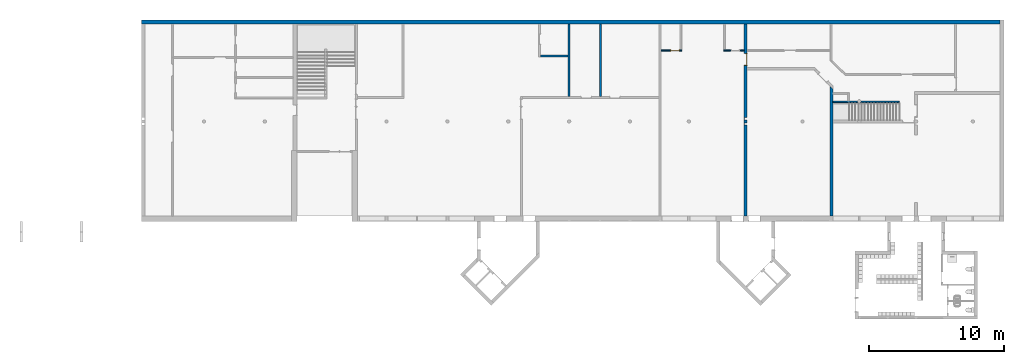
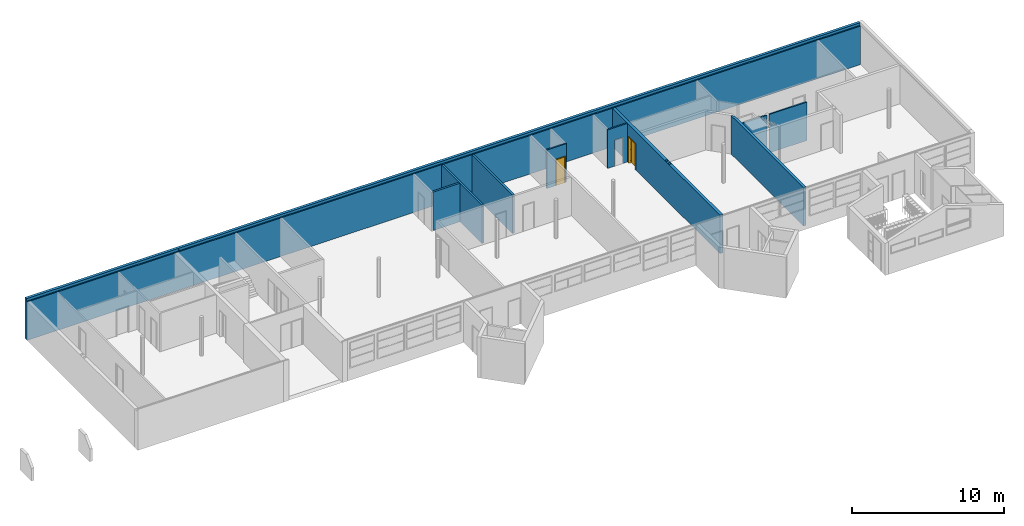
# One storey, part 17 of 25: 9 walls, 2 doors, 3 openings.
"""IFC2X3 building model written with IfcOpenShell, lengths in millimetres."""

from ifc_helpers import new_model, entity, si_unit, converted_unit, derived_unit, money_unit, direction, frame, origin_with_axes, place, context, subcontext, project, spatial, faceted_brep, material, type_object, element, fill, save


model = new_model("IFC2X3")

# Units and contexts
model_context = context("Model", 3, precision=0.01, world=origin_with_axes(), true_north=direction((0.0, 1.0)))
body_context = subcontext(model_context, "Body", "Model", "MODEL_VIEW")
ifc_project = project(units=[si_unit("LENGTHUNIT", "METRE", prefix="MILLI"), si_unit("AREAUNIT", "SQUARE_METRE"), si_unit("VOLUMEUNIT", "CUBIC_METRE"), converted_unit("PLANEANGLEUNIT", "DEGREE", entity("IfcPlaneAngleMeasure", 0.0174532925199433), si_unit("PLANEANGLEUNIT", "RADIAN"), dimensions=[0, 0, 0, 0, 0, 0, 0]), money_unit("USD"), converted_unit("TIMEUNIT", "Year", entity("IfcTimeMeasure", 31557600.0), si_unit("TIMEUNIT", "SECOND"), dimensions=[0, 0, 1, 0, 0, 0, 0]), si_unit("MASSUNIT", "GRAM", prefix="KILO"), si_unit("THERMODYNAMICTEMPERATUREUNIT", "DEGREE_CELSIUS"), si_unit("LUMINOUSINTENSITYUNIT", "LUMEN"), si_unit("ENERGYUNIT", "JOULE", prefix="MEGA"), derived_unit("THERMALCONDUCTANCEUNIT", [(si_unit("POWERUNIT", "WATT"), 1), (si_unit("LENGTHUNIT", "METRE"), -1), (si_unit("THERMODYNAMICTEMPERATUREUNIT", "KELVIN"), -1)]), derived_unit("SPECIFICHEATCAPACITYUNIT", [(si_unit("ENERGYUNIT", "JOULE"), 1), (si_unit("MASSUNIT", "GRAM", prefix="KILO"), -1), (si_unit("THERMODYNAMICTEMPERATUREUNIT", "KELVIN"), -1)]), derived_unit("MASSDENSITYUNIT", [(si_unit("MASSUNIT", "GRAM", prefix="KILO"), 1), (si_unit("VOLUMEUNIT", "CUBIC_METRE"), -1)])], contexts=[model_context])

# Site, building, storey
site_placement = place(None, origin_with_axes())
site = spatial("IfcSite", under=ifc_project, at=site_placement, Name="Site", CompositionType="ELEMENT")
building_placement = place(site_placement, origin_with_axes())
building = spatial("IfcBuilding", under=site, at=building_placement, Name="Building", CompositionType="ELEMENT")
storey_placement = place(building_placement, origin_with_axes())
storey = spatial("IfcBuildingStorey", under=building, at=storey_placement, Name="U ETG", CompositionType="ELEMENT", Elevation=0.0)

# Wall, opening, door
ifc_material_1 = material(Name="GENERIC - INTERNAL FILLER")
wall_type_1 = type_object("IfcWallType", Name="GENERIC - INTERNAL FILLER 110", PredefinedType="NOTDEFINED")
wall_1_placement = place(storey_placement, frame((47150.35609034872, 19800.0, 0.0), z_axis=(0.0, 0.0, 1.0), x_axis=(1.0, 0.0, 0.0)))
wall_1 = element("IfcWall", 1, at=wall_1_placement, inside=storey, type_object=wall_type_1, material=ifc_material_1, Name="SW - 001", context=body_context, shape_type="Brep", body=[
    faceted_brep([(854.643909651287, 0.0, 2100.0), (854.643909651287, 0.0, 0.0), (149.9999999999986, 0.0, 0.0), (149.9999999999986, 0.0, 3100.0), (1659.64390965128, 0.0, 3100.0), (1659.64390965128, 0.0, 0.0), (1504.643909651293, 0.0, 0.0), (1504.643909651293, 0.0, 2100.0), (854.643909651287, -109.9999999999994, 2100.0), (854.643909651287, -109.9999999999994, 0.0), (149.9999999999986, -109.9999999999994, 0.0), (149.9999999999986, -109.9999999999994, 3100.0), (1659.64390965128, -109.9999999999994, 3100.0), (1659.64390965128, -109.9999999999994, 0.0), (1504.643909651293, -109.9999999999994, 0.0), (1504.643909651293, -109.9999999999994, 2100.0)], [[[0, 1, 2, 3, 4, 5, 6, 7]], [[1, 0, 8, 9]], [[1, 9, 10, 2]], [[11, 3, 2, 10]], [[4, 3, 11, 12]], [[12, 13, 5, 4]], [[14, 6, 5, 13]], [[7, 6, 14, 15]], [[0, 7, 15, 8]], [[15, 14, 13, 12, 11, 10, 9, 8]]]),
])
opening_1_placement = place(wall_1_placement, frame((1179.64390965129, 0.0, 0.0), z_axis=(0.0, 0.0, 1.0), x_axis=(1.0, 0.0, 0.0)))
opening_1 = element("IfcOpeningElement", 2, at=opening_1_placement, cuts=wall_1, Name="DOO - 002", context=body_context, shape_type="Brep", body=[
    faceted_brep([(-325.0000000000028, -109.9999999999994, 2100.0), (325.0000000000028, -109.9999999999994, 2100.0), (325.0000000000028, 0.0, 2100.0), (-325.0000000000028, 0.0, 2100.0), (325.0000000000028, -109.9999999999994, 0.0), (-325.0000000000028, -109.9999999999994, 0.0), (-362.0000000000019, -109.9999999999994, 0.0), (-362.0000000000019, -109.9999999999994, 2137.0), (362.0000000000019, -109.9999999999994, 2137.0), (362.0000000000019, -109.9999999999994, 0.0), (325.0000000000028, 0.0, 0.0), (362.0000000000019, 0.0, 0.0), (362.0000000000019, 0.0, 2137.0), (-362.0000000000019, 0.0, 2137.0), (-362.0000000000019, 0.0, 0.0), (-325.0000000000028, 0.0, 0.0), (-325.0000000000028, -111.0000000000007, 0.0), (-362.0000000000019, -111.0000000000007, 0.0), (-362.0000000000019, -111.0000000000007, 2137.0), (362.0000000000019, -111.0000000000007, 2137.0), (362.0000000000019, -111.0000000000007, 0.0), (325.0000000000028, -111.0000000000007, 0.0), (-325.0000000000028, 1.000000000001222, 0.0), (325.0000000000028, 1.000000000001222, 0.0), (362.0000000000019, 1.000000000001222, 0.0), (362.0000000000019, 1.000000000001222, 2137.0), (-362.0000000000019, 1.000000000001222, 2137.0), (-362.0000000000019, 1.000000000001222, 0.0), (-325.0000000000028, -111.0000000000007, 2100.0), (325.0000000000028, -111.0000000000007, 2100.0)], [[[0, 1, 2, 3]], [[4, 1, 0, 5, 6, 7, 8, 9]], [[1, 4, 10, 2]], [[3, 2, 10, 11, 12, 13, 14, 15]], [[5, 0, 3, 15]], [[5, 16, 17, 6]], [[7, 6, 17, 18]], [[8, 7, 18, 19]], [[9, 8, 19, 20]], [[21, 4, 9, 20]], [[16, 5, 15, 22, 23, 10, 4, 21]], [[10, 23, 24, 11]], [[12, 11, 24, 25]], [[13, 12, 25, 26]], [[14, 13, 26, 27]], [[22, 15, 14, 27]], [[28, 29, 21, 20, 19, 18, 17, 16]], [[23, 22, 27, 26, 25, 24]], [[28, 16, 21, 29]]]),
])
door_style = type_object("IfcDoorStyle", Name="Dør", ConstructionType="NOTDEFINED", OperationType="SINGLE_SWING_RIGHT", ParameterTakesPrecedence=False, Sizeable=False)
door_1_placement = place(opening_1_placement, frame((325.0000000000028, 0.0, 0.0), z_axis=(0.0, 0.0, 1.0), x_axis=(-1.0, 0.0, 0.0)))
door_1 = element("IfcDoor", 3, at=door_1_placement, inside=storey, type_object=door_style, Name="DOO - 002", ObjectType="DOOR", OverallHeight=2100.0, OverallWidth=650.0, context=body_context, shape_type="Brep", body=[
    faceted_brep([(-36.99999999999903, -19.0000000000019, 0.0), (-36.99999999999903, 0.0, 0.0), (13.00000000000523, 0.0, 0.0), (13.00000000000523, -19.0000000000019, 0.0), (-36.99999999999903, -19.0000000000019, 2137.0), (-36.99999999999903, 0.0, 2137.0), (13.00000000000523, 0.0, 2087.0), (13.00000000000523, -19.0000000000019, 2087.0)], [[[0, 1, 2, 3]], [[4, 5, 1, 0]], [[1, 5, 6, 2]], [[3, 2, 6, 7]], [[0, 3, 7, 4]], [[7, 6, 5, 4]]]),
    faceted_brep([(687.0000000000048, -19.0000000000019, 2137.0), (687.0000000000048, 0.0, 2137.0), (637.0000000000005, 0.0, 2087.0), (637.0000000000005, -19.0000000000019, 2087.0), (687.0000000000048, -19.0000000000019, 0.0), (687.0000000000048, 0.0, 0.0), (637.0000000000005, 0.0, 0.0), (637.0000000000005, -19.0000000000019, 0.0)], [[[0, 1, 2, 3]], [[4, 5, 1, 0]], [[1, 5, 6, 2]], [[3, 2, 6, 7]], [[0, 3, 7, 4]], [[7, 6, 5, 4]]]),
    faceted_brep([(-36.99999999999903, -19.0000000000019, 2137.0), (-36.99999999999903, 0.0, 2137.0), (13.00000000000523, 0.0, 2087.0), (13.00000000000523, -19.0000000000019, 2087.0), (687.0000000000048, -19.0000000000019, 2137.0), (687.0000000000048, 0.0, 2137.0), (637.0000000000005, 0.0, 2087.0), (637.0000000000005, -19.0000000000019, 2087.0)], [[[0, 1, 2, 3]], [[4, 5, 1, 0]], [[1, 5, 6, 2]], [[3, 2, 6, 7]], [[0, 3, 7, 4]], [[7, 6, 5, 4]]]),
    faceted_brep([(-36.99999999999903, 128.9999999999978, 0.0), (13.00000000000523, 128.9999999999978, 0.0), (13.00000000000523, 109.9999999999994, 0.0), (-36.99999999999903, 109.9999999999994, 0.0), (-36.99999999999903, 128.9999999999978, 2137.0), (13.00000000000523, 128.9999999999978, 2087.0), (13.00000000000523, 109.9999999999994, 2087.0), (-36.99999999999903, 109.9999999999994, 2137.0)], [[[0, 1, 2, 3]], [[0, 4, 5, 1]], [[1, 5, 6, 2]], [[3, 2, 6, 7]], [[4, 0, 3, 7]], [[5, 4, 7, 6]]]),
    faceted_brep([(687.0000000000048, 128.9999999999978, 2137.0), (637.0000000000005, 128.9999999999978, 2087.0), (637.0000000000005, 109.9999999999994, 2087.0), (687.0000000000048, 109.9999999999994, 2137.0), (687.0000000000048, 128.9999999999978, 0.0), (637.0000000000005, 128.9999999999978, 0.0), (637.0000000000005, 109.9999999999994, 0.0), (687.0000000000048, 109.9999999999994, 0.0)], [[[0, 1, 2, 3]], [[0, 4, 5, 1]], [[1, 5, 6, 2]], [[3, 2, 6, 7]], [[4, 0, 3, 7]], [[5, 4, 7, 6]]]),
    faceted_brep([(-36.99999999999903, 128.9999999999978, 2137.0), (13.00000000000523, 128.9999999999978, 2087.0), (13.00000000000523, 109.9999999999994, 2087.0), (-36.99999999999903, 109.9999999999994, 2137.0), (687.0000000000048, 128.9999999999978, 2137.0), (637.0000000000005, 128.9999999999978, 2087.0), (637.0000000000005, 109.9999999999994, 2087.0), (687.0000000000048, 109.9999999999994, 2137.0)], [[[0, 1, 2, 3]], [[0, 4, 5, 1]], [[1, 5, 6, 2]], [[3, 2, 6, 7]], [[4, 0, 3, 7]], [[5, 4, 7, 6]]]),
    faceted_brep([(0.0, 109.9999999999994, 0.0), (40.00000000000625, 109.9999999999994, 0.0), (40.00000000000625, -4.999999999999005, 0.0), (0.0, -4.999999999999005, 0.0), (0.0, 109.9999999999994, 2060.0), (40.00000000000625, 109.9999999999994, 2060.0), (40.00000000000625, -4.999999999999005, 2060.0), (0.0, -4.999999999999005, 2060.0)], [[[0, 1, 2, 3]], [[0, 4, 5, 1]], [[1, 5, 6, 2]], [[3, 2, 6, 7]], [[4, 0, 3, 7]], [[5, 4, 7, 6]]]),
    faceted_brep([(650.0000000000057, 109.9999999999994, 0.0), (650.0000000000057, 109.9999999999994, 2060.0), (650.0000000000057, -4.999999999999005, 2060.0), (650.0000000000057, -4.999999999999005, 0.0), (609.9999999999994, 109.9999999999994, 0.0), (609.9999999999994, 109.9999999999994, 2060.0), (609.9999999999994, -4.999999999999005, 2060.0), (609.9999999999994, -4.999999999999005, 0.0)], [[[0, 1, 2, 3]], [[0, 4, 5, 1]], [[1, 5, 6, 2]], [[3, 2, 6, 7]], [[4, 0, 3, 7]], [[5, 4, 7, 6]]]),
    faceted_brep([(0.0, 109.9999999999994, 2100.0), (0.0, 109.9999999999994, 2060.0), (0.0, -4.999999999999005, 2060.0), (0.0, -4.999999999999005, 2100.0), (650.0000000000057, 109.9999999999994, 2100.0), (650.0000000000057, 109.9999999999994, 2060.0), (609.9999999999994, 109.9999999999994, 2060.0), (40.00000000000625, 109.9999999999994, 2060.0), (40.00000000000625, -4.999999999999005, 2060.0), (609.9999999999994, -4.999999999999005, 2060.0), (650.0000000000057, -4.999999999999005, 2060.0), (650.0000000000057, -4.999999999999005, 2100.0)], [[[0, 1, 2, 3]], [[0, 4, 5, 6, 7, 1]], [[1, 7, 8, 2]], [[3, 2, 8, 9, 10, 11]], [[4, 0, 3, 11]], [[5, 4, 11, 10]], [[6, 5, 10, 9]], [[7, 6, 9, 8]]]),
    faceted_brep([(609.9999999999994, 109.9999999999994, 0.0), (609.9999999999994, 70.00000000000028, 0.0), (40.00000000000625, 70.00000000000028, 0.0), (40.00000000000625, 109.9999999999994, 0.0), (609.9999999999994, 109.9999999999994, 2060.0), (609.9999999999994, 70.00000000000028, 2060.0), (40.00000000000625, 70.00000000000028, 2060.0), (40.00000000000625, 109.9999999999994, 2060.0)], [[[0, 1, 2, 3]], [[4, 5, 1, 0]], [[1, 5, 6, 2]], [[3, 2, 6, 7]], [[0, 3, 7, 4]], [[7, 6, 5, 4]]]),
])
fill(opening_1, door_1)

# Wall, opening
wall_2_placement = place(storey_placement, frame((53550.0, 19800.0, 0.0), z_axis=(0.0, 0.0, 1.0), x_axis=(-1.0, 0.0, 0.0)))
wall_2 = element("IfcWall", 4, at=wall_2_placement, inside=storey, type_object=wall_type_1, material=ifc_material_1, Name="SW - 001", context=body_context, shape_type="Brep", body=[
    faceted_brep([(1085.481488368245, 0.0, 2100.0), (1085.481488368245, 0.0, 0.0), (1620.000000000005, 0.0, 0.0), (1620.000000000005, 0.0, 3100.0), (109.9999999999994, 0.0, 3100.0), (109.9999999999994, 0.0, 0.0), (435.4814883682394, 0.0, 0.0), (435.4814883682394, 0.0, 2100.0), (1085.481488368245, 109.9999999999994, 2100.0), (1085.481488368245, 109.9999999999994, 0.0), (1620.000000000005, 109.9999999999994, 0.0), (1620.000000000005, 109.9999999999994, 3100.0), (109.9999999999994, 109.9999999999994, 3100.0), (109.9999999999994, 109.9999999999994, 0.0), (435.4814883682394, 109.9999999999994, 0.0), (435.4814883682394, 109.9999999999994, 2100.0)], [[[0, 1, 2, 3, 4, 5, 6, 7]], [[1, 0, 8, 9]], [[1, 9, 10, 2]], [[3, 2, 10, 11]], [[12, 4, 3, 11]], [[5, 4, 12, 13]], [[14, 6, 5, 13]], [[7, 6, 14, 15]], [[0, 7, 15, 8]], [[15, 14, 13, 12, 11, 10, 9, 8]]]),
])
opening_2_placement = place(wall_2_placement, frame((760.4814883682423, 0.0, 0.0), z_axis=(0.0, 0.0, 1.0), x_axis=(1.0, 0.0, 0.0)))
element("IfcOpeningElement", 5, at=opening_2_placement, cuts=wall_2, Name="DOO - 002", context=body_context, shape_type="Brep", body=[
    faceted_brep([(325.0000000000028, 109.9999999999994, 2100.0), (-325.0000000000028, 109.9999999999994, 2100.0), (-325.0000000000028, 0.0, 2100.0), (325.0000000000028, 0.0, 2100.0), (-325.0000000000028, 109.9999999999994, 0.0), (325.0000000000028, 109.9999999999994, 0.0), (362.0000000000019, 109.9999999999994, 0.0), (362.0000000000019, 109.9999999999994, 2137.0), (-362.0000000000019, 109.9999999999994, 2137.0), (-362.0000000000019, 109.9999999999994, 0.0), (-325.0000000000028, 0.0, 0.0), (-362.0000000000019, 0.0, 0.0), (-362.0000000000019, 0.0, 2137.0), (362.0000000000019, 0.0, 2137.0), (362.0000000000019, 0.0, 0.0), (325.0000000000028, 0.0, 0.0), (325.0000000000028, 111.0000000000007, 0.0), (362.0000000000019, 111.0000000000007, 0.0), (362.0000000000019, 111.0000000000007, 2137.0), (-362.0000000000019, 111.0000000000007, 2137.0), (-362.0000000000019, 111.0000000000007, 0.0), (-325.0000000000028, 111.0000000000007, 0.0), (325.0000000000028, -1.000000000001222, 0.0), (-325.0000000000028, -1.000000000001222, 0.0), (-362.0000000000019, -1.000000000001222, 0.0), (-362.0000000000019, -1.000000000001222, 2137.0), (362.0000000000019, -1.000000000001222, 2137.0), (362.0000000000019, -1.000000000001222, 0.0), (325.0000000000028, 111.0000000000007, 2100.0), (-325.0000000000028, 111.0000000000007, 2100.0)], [[[0, 1, 2, 3]], [[4, 1, 0, 5, 6, 7, 8, 9]], [[1, 4, 10, 2]], [[3, 2, 10, 11, 12, 13, 14, 15]], [[5, 0, 3, 15]], [[5, 16, 17, 6]], [[7, 6, 17, 18]], [[8, 7, 18, 19]], [[9, 8, 19, 20]], [[21, 4, 9, 20]], [[16, 5, 15, 22, 23, 10, 4, 21]], [[10, 23, 24, 11]], [[12, 11, 24, 25]], [[13, 12, 25, 26]], [[14, 13, 26, 27]], [[22, 15, 14, 27]], [[28, 29, 21, 20, 19, 18, 17, 16]], [[23, 22, 27, 26, 25, 24]], [[28, 16, 21, 29]]]),
])

# Walls
wall_3_placement = place(storey_placement, frame((60003.50288425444, 15900.0, 0.0), z_axis=(0.0, 0.0, 1.0), x_axis=(1.0, 0.0, 0.0)))
element("IfcWall", 6, at=wall_3_placement, inside=storey, type_object=wall_type_1, material=ifc_material_1, Name="SW - 001", context=body_context, shape_type="Brep", body=[
    faceted_brep([(0.0, 0.0, 0.0), (1872.175269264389, 0.0, 0.0), (1872.175269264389, 0.0, 3100.0), (0.0, 0.0, 3100.0), (1848.768180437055, 22.06377476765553, 0.0), (1868.560890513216, 2.271064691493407, 0.0), (0.0, 109.9999999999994, 0.0), (1822.623845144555, 109.9999999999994, 0.0), (1821.497115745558, 99.99999999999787, 0.0), (1824.631126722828, 72.18488325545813, 0.0), (1833.876007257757, 45.76453261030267, 0.0), (1868.560890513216, 2.271064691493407, 3100.0), (1824.631126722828, 72.18488325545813, 3100.0), (1821.497115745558, 99.99999999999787, 3100.0), (1822.623845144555, 109.9999999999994, 3100.0), (0.0, 109.9999999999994, 3100.0), (1848.768180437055, 22.06377476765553, 3100.0), (1833.876007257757, 45.76453261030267, 3100.0)], [[[0, 1, 2, 3]], [[4, 5, 1, 0, 6, 7, 8, 9, 10]], [[5, 11, 2, 1]], [[12, 13, 14, 15, 3, 2, 11, 16, 17]], [[3, 15, 6, 0]], [[4, 16, 11, 5]], [[15, 14, 7, 6]], [[8, 7, 14, 13]], [[8, 13, 12, 9]], [[9, 12, 17, 10]], [[10, 17, 16, 4]]]),
    faceted_brep([(2044.226051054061, 22.06377476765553, 3100.0), (2024.4333409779, 2.271064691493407, 3100.0), (2020.818962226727, 0.0, 3100.0), (4900.000000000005, 0.0, 3100.0), (4900.000000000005, 109.9999999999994, 3100.0), (2070.370386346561, 109.9999999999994, 3100.0), (2071.497115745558, 99.99999999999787, 3100.0), (2068.363104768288, 72.18488325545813, 3100.0), (2059.118224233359, 45.76453261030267, 3100.0), (2024.4333409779, 2.271064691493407, 0.0), (2044.226051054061, 22.06377476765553, 0.0), (2020.818962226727, 0.0, 0.0), (4900.000000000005, 0.0, 0.0), (4900.000000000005, 109.9999999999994, 0.0), (2070.370386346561, 109.9999999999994, 0.0), (2071.497115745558, 99.99999999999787, 0.0), (2068.363104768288, 72.18488325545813, 0.0), (2059.118224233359, 45.76453261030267, 0.0)], [[[0, 1, 2, 3, 4, 5, 6, 7, 8]], [[9, 1, 0, 10]], [[11, 2, 1, 9]], [[3, 2, 11, 12]], [[3, 12, 13, 4]], [[13, 14, 5, 4]], [[15, 6, 5, 14]], [[16, 7, 6, 15]], [[17, 8, 7, 16]], [[10, 0, 8, 17]], [[16, 15, 14, 13, 12, 11, 9, 10, 17]]]),
])
ifc_material_2 = material(Name="GENERIC - STRUCTURAL")
wall_type_2 = type_object("IfcWallType", Name="GENERIC - STRUCTURAL 300", PredefinedType="NOTDEFINED")
wall_4_placement = place(storey_placement, frame((9000.000000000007, 21700.0, 0.0), z_axis=(0.0, 0.0, 1.0), x_axis=(1.0, 0.0, 0.0)))
element("IfcWall", 7, at=wall_4_placement, inside=storey, type_object=wall_type_2, material=ifc_material_2, Name="SW - 001", context=body_context, shape_type="Brep", body=[
    faceted_brep([(-130.0000000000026, 300.0000000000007, 3300.0), (-130.0000000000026, 100.0005009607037, 3300.0), (63349.99999999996, 100.0005009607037, 3300.0), (63349.99999999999, 300.0000000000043, 3300.0), (-130.0000000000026, 0.0, 3100.0), (-130.0000000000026, 100.0005009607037, 3100.0), (-130.0000000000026, 300.0000000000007, 0.0), (-130.0000000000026, 0.0, 0.0), (63349.99999999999, 100.0005009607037, 3100.0), (63349.99999999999, 0.0, 3100.0), (63349.99999999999, 0.0, 0.0), (63349.99999999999, 300.0000000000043, 0.0), (11456.58406110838, 0.0, 3100.0), (11418.15333142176, 0.0, 3100.0), (11418.15333142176, 38.63460103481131, 3100.0), (11418.15333142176, 0.0, 3300.0), (11456.58406110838, 0.0, 3300.0), (11418.15333142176, 38.63460103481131, 3300.0)], [[[0, 1, 2, 3]], [[4, 5, 1, 0, 6, 7]], [[5, 8, 2, 1]], [[2, 8, 9, 10, 11, 3]], [[0, 3, 11, 6]], [[12, 9, 8, 5, 4, 13, 14]], [[6, 11, 10, 7]], [[15, 13, 4, 7, 10, 9, 12, 16]], [[13, 15, 17, 14]], [[14, 17, 16, 12]], [[16, 17, 15]]]),
])
wall_type_3 = type_object("IfcWallType", Name="GENERIC - INTERNAL FILLER 150", PredefinedType="NOTDEFINED")
wall_5_placement = place(storey_placement, frame((42899.99999999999, 16199.5709291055, 0.0), z_axis=(0.0, 0.0, 1.0), x_axis=(0.0, 1.0, 0.0)))
element("IfcWall", 8, at=wall_5_placement, inside=storey, type_object=wall_type_3, material=ifc_material_1, Name="SW - 001", context=body_context, shape_type="Brep", body=[
    faceted_brep([(5500.429070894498, 149.9999999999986, 0.0), (5500.429070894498, 0.0, 0.0), (149.9999999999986, 0.0, 0.0), (149.9999999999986, 149.9999999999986, 0.0), (5500.429070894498, 149.9999999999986, 3100.0), (5500.429070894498, 0.0, 3100.0), (149.9999999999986, 0.0, 3100.0), (149.9999999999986, 149.9999999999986, 3100.0)], [[[0, 1, 2, 3]], [[1, 0, 4, 5]], [[1, 5, 6, 2]], [[7, 3, 2, 6]], [[4, 0, 3, 7]], [[5, 4, 7, 6]]]),
])
wall_6_placement = place(storey_placement, frame((40500.0, 16199.5709291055, 0.0), z_axis=(0.0, 0.0, 1.0), x_axis=(0.0, 1.0, 0.0)))
element("IfcWall", 9, at=wall_6_placement, inside=storey, type_object=wall_type_3, material=ifc_material_1, Name="SW - 001", context=body_context, shape_type="Brep", body=[
    faceted_brep([(5500.429070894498, 75.00000000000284, 0.0), (5500.429070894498, -75.00000000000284, 0.0), (149.9999999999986, -75.00000000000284, 0.0), (149.9999999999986, 75.00000000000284, 0.0), (5500.429070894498, 75.00000000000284, 3100.0), (5500.429070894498, -75.00000000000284, 3100.0), (149.9999999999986, -75.00000000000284, 3100.0), (149.9999999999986, 75.00000000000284, 3100.0)], [[[0, 1, 2, 3]], [[1, 0, 4, 5]], [[1, 5, 6, 2]], [[7, 3, 2, 6]], [[4, 0, 3, 7]], [[5, 4, 7, 6]]]),
])
wall_7_placement = place(storey_placement, frame((38400.00000000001, 19400.0, 0.0), z_axis=(0.0, 0.0, 1.0), x_axis=(1.0, 0.0, 0.0)))
element("IfcWall", 10, at=wall_7_placement, inside=storey, type_object=wall_type_3, material=ifc_material_1, Name="SW - 001", context=body_context, shape_type="Brep", body=[
    faceted_brep([(2024.999999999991, 0.0, 0.0), (2024.999999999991, -149.9999999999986, 0.0), (0.0, -149.9999999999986, 0.0), (0.0, 0.0, 0.0), (2024.999999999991, 0.0, 3100.0), (2024.999999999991, -149.9999999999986, 3100.0), (0.0, -149.9999999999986, 3100.0), (0.0, 0.0, 3100.0)], [[[0, 1, 2, 3]], [[1, 0, 4, 5]], [[1, 5, 6, 2]], [[7, 3, 2, 6]], [[4, 0, 3, 7]], [[5, 4, 7, 6]]]),
])

# Wall, opening, door
wall_type_4 = type_object("IfcWallType", Name="GENERIC - INTERNAL FILLER 220", PredefinedType="NOTDEFINED")
wall_8_placement = place(storey_placement, frame((53550.0, 7499.570929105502, 0.0), z_axis=(0.0, 0.0, 1.0), x_axis=(0.0, 1.0, 0.0)))
wall_8 = element("IfcWall", 11, at=wall_8_placement, inside=storey, type_object=wall_type_4, material=ifc_material_1, Name="SW - 001", context=body_context, shape_type="Brep", body=[
    faceted_brep([(11136.84018977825, -109.9999999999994, 0.0), (11136.84018977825, -109.9999999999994, 2100.0), (12036.84018977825, -109.9999999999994, 2100.0), (12036.84018977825, -109.9999999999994, 0.0), (14200.4290708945, -109.9999999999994, 0.0), (14200.4290708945, -109.9999999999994, 3100.0), (0.0, -109.9999999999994, 3100.0), (0.0, -109.9999999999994, 0.0), (11136.84018977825, 109.9999999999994, 0.0), (11136.84018977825, 109.9999999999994, 2100.0), (12036.84018977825, 109.9999999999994, 2100.0), (12036.84018977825, 109.9999999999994, 0.0), (14200.4290708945, 109.9999999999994, 0.0), (14200.4290708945, 109.9999999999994, 3100.0), (0.0, 109.9999999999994, 3100.0), (7100.304047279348, 90.00000000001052, 3100.0), (7280.429070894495, 90.00000000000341, 3100.0), (7280.429070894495, -90.00000000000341, 3100.0), (7100.304047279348, -89.9999999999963, 3100.0), (6720.304047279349, 90.00000000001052, 3100.0), (6900.429070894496, 90.00000000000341, 3100.0), (6900.429070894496, -90.00000000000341, 3100.0), (6720.304047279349, -89.9999999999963, 3100.0), (0.0, 109.9999999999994, 0.0), (7100.304047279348, -89.9999999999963, 0.0), (7280.429070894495, -90.00000000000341, 0.0), (7280.429070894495, 90.00000000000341, 0.0), (7100.304047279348, 90.00000000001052, 0.0), (6720.304047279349, -89.9999999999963, 0.0), (6900.429070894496, -90.00000000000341, 0.0), (6900.429070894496, 90.00000000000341, 0.0), (6720.304047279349, 90.00000000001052, 0.0)], [[[0, 1, 2, 3, 4, 5, 6, 7]], [[1, 0, 8, 9]], [[2, 1, 9, 10]], [[3, 2, 10, 11]], [[3, 11, 12, 4]], [[5, 4, 12, 13]], [[6, 5, 13, 14], [15, 16, 17, 18], [19, 20, 21, 22]], [[6, 14, 23, 7]], [[8, 0, 7, 23], [24, 25, 26, 27], [28, 29, 30, 31]], [[9, 8, 23, 14, 13, 12, 11, 10]], [[15, 27, 26, 16]], [[17, 16, 26, 25]], [[18, 17, 25, 24]], [[15, 18, 24, 27]], [[19, 31, 30, 20]], [[21, 20, 30, 29]], [[22, 21, 29, 28]], [[19, 22, 28, 31]]]),
])
opening_3_placement = place(wall_8_placement, frame((11586.84018977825, 0.0, 0.0), z_axis=(0.0, 0.0, 1.0), x_axis=(1.0, 0.0, 0.0)))
opening_3 = element("IfcOpeningElement", 12, at=opening_3_placement, cuts=wall_8, Name="DOO - 002", context=body_context, shape_type="Brep", body=[
    faceted_brep([(449.9999999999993, -110.9999999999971, 0.0), (449.9999999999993, -110.9999999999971, 2100.0), (-449.9999999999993, -110.9999999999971, 2100.0), (-449.9999999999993, -110.9999999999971, 0.0), (486.9999999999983, -110.9999999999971, 0.0), (486.9999999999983, -110.9999999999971, 2137.0), (-486.9999999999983, -110.9999999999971, 2137.0), (-486.9999999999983, -110.9999999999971, 0.0), (449.9999999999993, -109.9999999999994, 0.0), (-449.9999999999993, -109.9999999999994, 0.0), (-449.9999999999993, 109.9999999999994, 0.0), (-449.9999999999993, 110.9999999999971, 0.0), (449.9999999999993, 110.9999999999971, 0.0), (449.9999999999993, 109.9999999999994, 0.0), (486.9999999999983, -109.9999999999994, 0.0), (486.9999999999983, -109.9999999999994, 2137.0), (-486.9999999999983, -109.9999999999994, 2137.0), (-486.9999999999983, -109.9999999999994, 0.0), (-449.9999999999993, -109.9999999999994, 2100.0), (-449.9999999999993, 109.9999999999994, 2100.0), (-486.9999999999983, 109.9999999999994, 0.0), (-486.9999999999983, 110.9999999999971, 0.0), (-486.9999999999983, 110.9999999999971, 2137.0), (486.9999999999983, 110.9999999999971, 2137.0), (486.9999999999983, 110.9999999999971, 0.0), (486.9999999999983, 109.9999999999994, 0.0), (449.9999999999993, -109.9999999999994, 2100.0), (449.9999999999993, 109.9999999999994, 2100.0), (486.9999999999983, 109.9999999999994, 2137.0), (-486.9999999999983, 109.9999999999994, 2137.0)], [[[0, 1, 2, 3]], [[2, 1, 0, 4, 5, 6, 7, 3]], [[8, 0, 3, 9, 10, 11, 12, 13]], [[0, 8, 14, 4]], [[14, 15, 5, 4]], [[15, 16, 6, 5]], [[16, 17, 7, 6]], [[9, 3, 7, 17]], [[9, 18, 19, 10]], [[11, 10, 20, 21]], [[12, 11, 21, 22, 23, 24]], [[13, 12, 24, 25]], [[26, 8, 13, 27]], [[8, 26, 18, 9, 17, 16, 15, 14]], [[18, 26, 27, 19]], [[19, 27, 13, 25, 28, 29, 20, 10]], [[20, 29, 22, 21]], [[29, 28, 23, 22]], [[28, 25, 24, 23]]]),
])
door_2_placement = place(opening_3_placement, frame((449.9999999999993, 0.0, 0.0), z_axis=(0.0, 0.0, 1.0), x_axis=(-1.0, 0.0, 0.0)))
door_2 = element("IfcDoor", 13, at=door_2_placement, inside=storey, type_object=door_style, Name="DOO - 002", ObjectType="DOOR", OverallHeight=2100.0, OverallWidth=900.0, context=body_context, shape_type="Brep", body=[
    faceted_brep([(0.0, -5.000000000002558, 0.0), (24.99999999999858, -5.000000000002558, 0.0), (24.99999999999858, -109.9999999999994, 0.0), (0.0, -109.9999999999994, 0.0), (0.0, -5.000000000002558, 2100.0), (24.99999999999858, -5.000000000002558, 2075.0), (24.99999999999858, -109.9999999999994, 2075.0), (0.0, -109.9999999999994, 2100.0)], [[[0, 1, 2, 3]], [[0, 4, 5, 1]], [[1, 5, 6, 2]], [[3, 2, 6, 7]], [[4, 0, 3, 7]], [[5, 4, 7, 6]]]),
    faceted_brep([(899.9999999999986, -5.000000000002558, 2100.0), (875.0, -5.000000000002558, 2075.0), (875.0, -109.9999999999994, 2075.0), (899.9999999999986, -109.9999999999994, 2100.0), (899.9999999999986, -5.000000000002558, 0.0), (875.0, -5.000000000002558, 0.0), (875.0, -109.9999999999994, 0.0), (899.9999999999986, -109.9999999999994, 0.0)], [[[0, 1, 2, 3]], [[0, 4, 5, 1]], [[1, 5, 6, 2]], [[3, 2, 6, 7]], [[4, 0, 3, 7]], [[5, 4, 7, 6]]]),
    faceted_brep([(24.99999999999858, -5.000000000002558, 2075.0), (875.0, -5.000000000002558, 2075.0), (875.0, -109.9999999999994, 2075.0), (24.99999999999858, -109.9999999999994, 2075.0), (0.0, -5.000000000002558, 2100.0), (899.9999999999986, -5.000000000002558, 2100.0), (899.9999999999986, -109.9999999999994, 2100.0), (0.0, -109.9999999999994, 2100.0)], [[[0, 1, 2, 3]], [[0, 4, 5, 1]], [[1, 5, 6, 2]], [[3, 2, 6, 7]], [[4, 0, 3, 7]], [[5, 4, 7, 6]]]),
    faceted_brep([(-36.99999999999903, -128.9999999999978, 0.0), (-36.99999999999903, -109.9999999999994, 0.0), (12.99999999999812, -109.9999999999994, 0.0), (12.99999999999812, -128.9999999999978, 0.0), (-36.99999999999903, -128.9999999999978, 2137.0), (-36.99999999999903, -109.9999999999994, 2137.0), (12.99999999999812, -109.9999999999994, 2087.0), (12.99999999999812, -128.9999999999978, 2087.0)], [[[0, 1, 2, 3]], [[4, 5, 1, 0]], [[1, 5, 6, 2]], [[3, 2, 6, 7]], [[0, 3, 7, 4]], [[7, 6, 5, 4]]]),
    faceted_brep([(936.9999999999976, -128.9999999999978, 2137.0), (936.9999999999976, -109.9999999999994, 2137.0), (887.0000000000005, -109.9999999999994, 2087.0), (887.0000000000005, -128.9999999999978, 2087.0), (936.9999999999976, -128.9999999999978, 0.0), (936.9999999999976, -109.9999999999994, 0.0), (887.0000000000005, -109.9999999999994, 0.0), (887.0000000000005, -128.9999999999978, 0.0)], [[[0, 1, 2, 3]], [[4, 5, 1, 0]], [[1, 5, 6, 2]], [[3, 2, 6, 7]], [[0, 3, 7, 4]], [[7, 6, 5, 4]]]),
    faceted_brep([(-36.99999999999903, -128.9999999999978, 2137.0), (-36.99999999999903, -109.9999999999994, 2137.0), (12.99999999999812, -109.9999999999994, 2087.0), (12.99999999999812, -128.9999999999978, 2087.0), (936.9999999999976, -128.9999999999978, 2137.0), (936.9999999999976, -109.9999999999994, 2137.0), (887.0000000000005, -109.9999999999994, 2087.0), (887.0000000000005, -128.9999999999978, 2087.0)], [[[0, 1, 2, 3]], [[4, 5, 1, 0]], [[1, 5, 6, 2]], [[3, 2, 6, 7]], [[0, 3, 7, 4]], [[7, 6, 5, 4]]]),
    faceted_brep([(-36.99999999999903, 128.9999999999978, 0.0), (12.99999999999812, 128.9999999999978, 0.0), (12.99999999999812, 109.9999999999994, 0.0), (-36.99999999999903, 109.9999999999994, 0.0), (-36.99999999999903, 128.9999999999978, 2137.0), (12.99999999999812, 128.9999999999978, 2087.0), (12.99999999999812, 109.9999999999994, 2087.0), (-36.99999999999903, 109.9999999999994, 2137.0)], [[[0, 1, 2, 3]], [[0, 4, 5, 1]], [[1, 5, 6, 2]], [[3, 2, 6, 7]], [[4, 0, 3, 7]], [[5, 4, 7, 6]]]),
    faceted_brep([(936.9999999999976, 128.9999999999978, 2137.0), (887.0000000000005, 128.9999999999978, 2087.0), (887.0000000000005, 109.9999999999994, 2087.0), (936.9999999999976, 109.9999999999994, 2137.0), (936.9999999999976, 128.9999999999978, 0.0), (887.0000000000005, 128.9999999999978, 0.0), (887.0000000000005, 109.9999999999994, 0.0), (936.9999999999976, 109.9999999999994, 0.0)], [[[0, 1, 2, 3]], [[0, 4, 5, 1]], [[1, 5, 6, 2]], [[3, 2, 6, 7]], [[4, 0, 3, 7]], [[5, 4, 7, 6]]]),
    faceted_brep([(-36.99999999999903, 128.9999999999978, 2137.0), (12.99999999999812, 128.9999999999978, 2087.0), (12.99999999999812, 109.9999999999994, 2087.0), (-36.99999999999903, 109.9999999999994, 2137.0), (936.9999999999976, 128.9999999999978, 2137.0), (887.0000000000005, 128.9999999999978, 2087.0), (887.0000000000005, 109.9999999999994, 2087.0), (936.9999999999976, 109.9999999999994, 2137.0)], [[[0, 1, 2, 3]], [[0, 4, 5, 1]], [[1, 5, 6, 2]], [[3, 2, 6, 7]], [[4, 0, 3, 7]], [[5, 4, 7, 6]]]),
    faceted_brep([(0.0, 109.9999999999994, 0.0), (39.99999999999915, 109.9999999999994, 0.0), (39.99999999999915, -5.000000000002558, 0.0), (0.0, -5.000000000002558, 0.0), (0.0, 109.9999999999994, 2060.0), (39.99999999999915, 109.9999999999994, 2060.0), (39.99999999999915, -5.000000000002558, 2060.0), (0.0, -5.000000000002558, 2060.0)], [[[0, 1, 2, 3]], [[0, 4, 5, 1]], [[1, 5, 6, 2]], [[3, 2, 6, 7]], [[4, 0, 3, 7]], [[5, 4, 7, 6]]]),
    faceted_brep([(899.9999999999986, 109.9999999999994, 0.0), (899.9999999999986, 109.9999999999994, 2060.0), (899.9999999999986, -5.000000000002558, 2060.0), (899.9999999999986, -5.000000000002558, 0.0), (859.9999999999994, 109.9999999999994, 0.0), (859.9999999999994, 109.9999999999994, 2060.0), (859.9999999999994, -5.000000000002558, 2060.0), (859.9999999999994, -5.000000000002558, 0.0)], [[[0, 1, 2, 3]], [[0, 4, 5, 1]], [[1, 5, 6, 2]], [[3, 2, 6, 7]], [[4, 0, 3, 7]], [[5, 4, 7, 6]]]),
    faceted_brep([(0.0, 109.9999999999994, 2100.0), (0.0, 109.9999999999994, 2060.0), (0.0, -5.000000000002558, 2060.0), (0.0, -5.000000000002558, 2100.0), (899.9999999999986, 109.9999999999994, 2100.0), (899.9999999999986, 109.9999999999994, 2060.0), (859.9999999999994, 109.9999999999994, 2060.0), (39.99999999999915, 109.9999999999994, 2060.0), (39.99999999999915, -5.000000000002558, 2060.0), (859.9999999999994, -5.000000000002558, 2060.0), (899.9999999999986, -5.000000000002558, 2060.0), (899.9999999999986, -5.000000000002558, 2100.0)], [[[0, 1, 2, 3]], [[0, 4, 5, 6, 7, 1]], [[1, 7, 8, 2]], [[3, 2, 8, 9, 10, 11]], [[4, 0, 3, 11]], [[5, 4, 11, 10]], [[6, 5, 10, 9]], [[7, 6, 9, 8]]]),
    faceted_brep([(859.9999999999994, 109.9999999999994, 0.0), (859.9999999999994, 70.00000000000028, 0.0), (39.99999999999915, 70.00000000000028, 0.0), (39.99999999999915, 109.9999999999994, 0.0), (859.9999999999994, 109.9999999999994, 2060.0), (859.9999999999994, 70.00000000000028, 2060.0), (39.99999999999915, 70.00000000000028, 2060.0), (39.99999999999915, 109.9999999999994, 2060.0)], [[[0, 1, 2, 3]], [[4, 5, 1, 0]], [[1, 5, 6, 2]], [[3, 2, 6, 7]], [[0, 3, 7, 4]], [[7, 6, 5, 4]]]),
])
fill(opening_3, door_2)

# Wall
wall_type_5 = type_object("IfcWallType", Name="GENERIC - INTERNAL FILLER 200", PredefinedType="NOTDEFINED")
wall_9_placement = place(storey_placement, frame((60003.50288425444, 17156.49711574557, 0.0), z_axis=(0.0, 0.0, 1.0), x_axis=(0.0, -1.0, 0.0)))
element("IfcWall", 14, at=wall_9_placement, inside=storey, type_object=wall_type_5, material=ifc_material_1, Name="SW - 001", context=body_context, shape_type="Brep", body=[
    faceted_brep([(82.84271247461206, -200.0000000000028, 3100.0), (9656.926186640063, -200.0000000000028, 3100.0), (9656.926186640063, 0.0, 3100.0), (282.8427124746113, 0.0, 3100.0), (82.84271247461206, -200.0000000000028, 0.0), (9656.926186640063, -200.0000000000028, 0.0), (9656.926186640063, 0.0, 0.0), (282.8427124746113, 0.0, 0.0)], [[[0, 1, 2, 3]], [[4, 5, 1, 0]], [[6, 2, 1, 5]], [[3, 2, 6, 7]], [[7, 4, 0, 3]], [[7, 6, 5, 4]]]),
])

save(model, "model.ifc")
